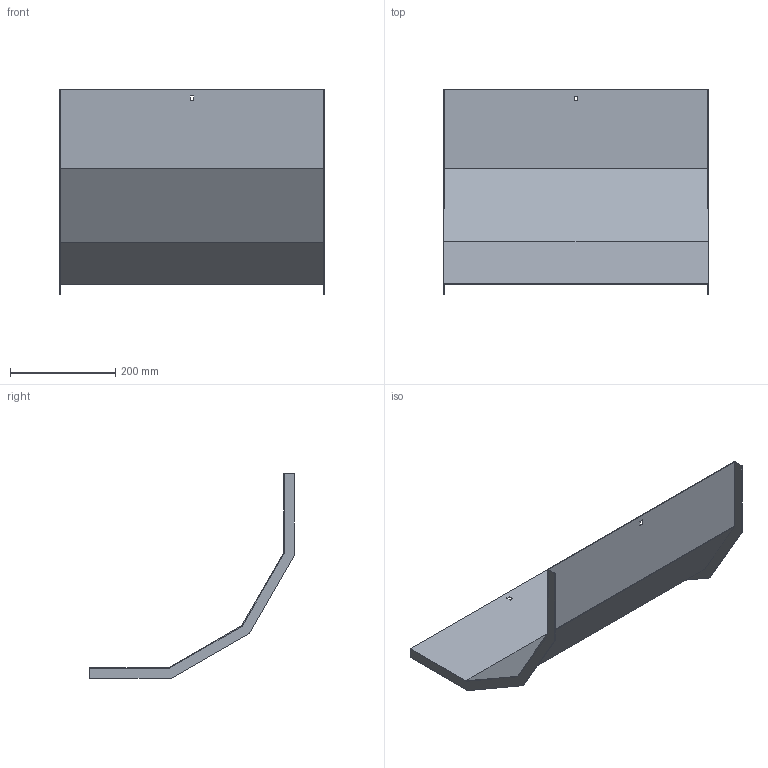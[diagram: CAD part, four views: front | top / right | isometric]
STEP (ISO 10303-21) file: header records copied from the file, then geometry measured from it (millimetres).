
FILE_DESCRIPTION (( 'STEP AP214' ), '1' );
FILE_NAME ('A2X30N3R500X.step', '2025-04-02T08:34:19', ( '' ), ( '' ), 'SwSTEP 2.0', 'SolidWorks 2023', '' );
FILE_SCHEMA (( 'AUTOMOTIVE_DESIGN' ));
Length unit declared in the file: millimetre
Products named in the file (1): A2X30N3R500X
Bounding box: 503 x 388.95 x 388.95 mm (x, y, z)
Volume: 504217.4 mm3; surface area: 675957 mm2
Topology: 1 solids, 1 shells, 30 faces, 84 edges, 56 vertices
Faces by surface type: plane 30
Entity records: 979 total; most frequent: CARTESIAN_POINT 171, ORIENTED_EDGE 168, DIRECTION 146, VECTOR 84, EDGE_CURVE 84, LINE 84, VERTEX_POINT 56, EDGE_LOOP 34
